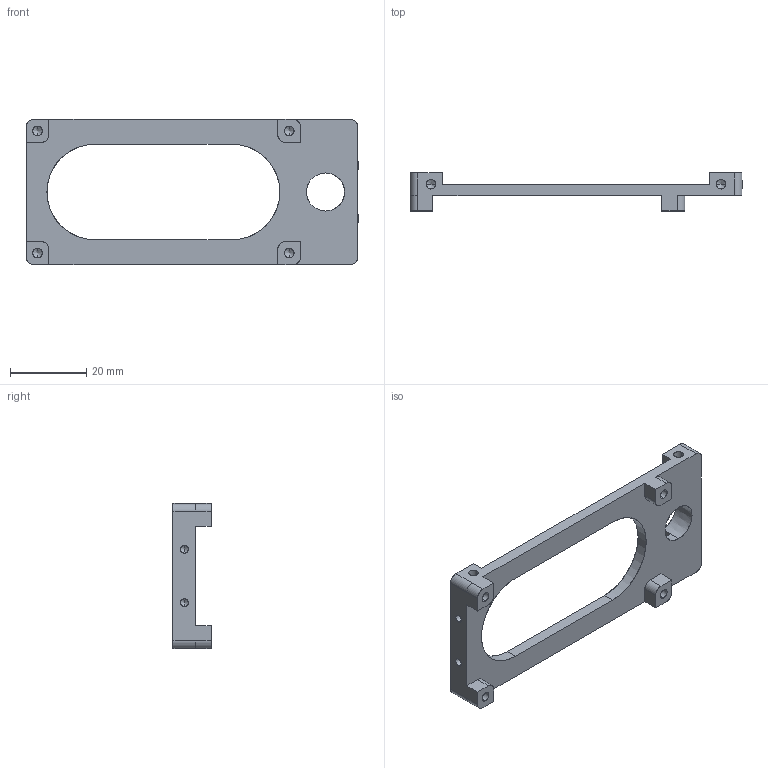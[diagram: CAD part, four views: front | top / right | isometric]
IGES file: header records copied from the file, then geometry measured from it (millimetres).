
Start section: SolidWorks IGES file using analytic representation for surfaces
Global section: file name: C:\Users\OSSI\Desktop\OSSIStructureNew\3dCNC\IGES\BatteryStructureBack.IGS; native system: SolidWorks 2011; preprocessor: SolidWorks 2011; author: OSSI; date: 120522.044114; units: millimetre
Bounding box: 87 x 10 x 38 mm (x, y, z)
Surface area: 6458.3 mm2 (no closed solid volume)
Topology: 0 solids, 0 shells, 92 faces, 1102 edges, 1078 vertices
Faces by surface type: revolution 64, bspline 28
